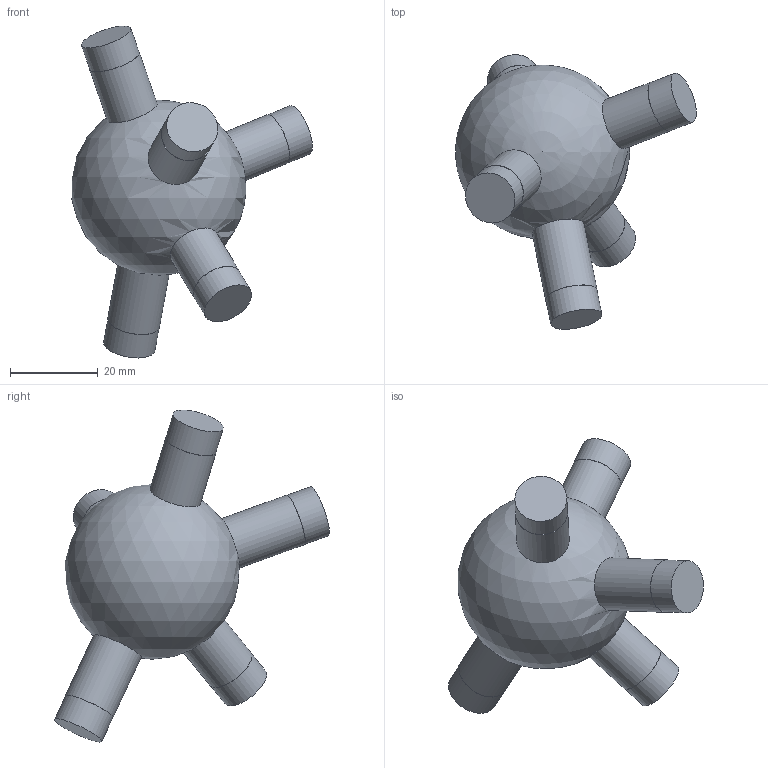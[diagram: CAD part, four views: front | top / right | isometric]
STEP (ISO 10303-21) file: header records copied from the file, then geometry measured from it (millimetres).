
FILE_DESCRIPTION(('Open CASCADE Model'),'2;1');
FILE_NAME('Open CASCADE Shape Model','2026-10-21T12:47:57',('Author'),( 'Open CASCADE'),'Open CASCADE STEP processor 7.9','Open CASCADE 7.9' ,'Unknown');
FILE_SCHEMA(('AUTOMOTIVE_DESIGN { 1 0 10303 214 1 1 1 1 }'));
Length unit declared in the file: millimetre
Products named in the file (1): Open CASCADE STEP translator 7.9 139
Bounding box: 55.04 x 62.79 x 75.85 mm (x, y, z)
Volume: 44385.2 mm3; surface area: 8735 mm2
Topology: 1 solids, 1 shells, 21 faces, 33 edges, 22 vertices
Faces by surface type: cylinder 10, plane 10, sphere 1
Full cylindrical faces by diameter (mm): 11.9 x5, 12 x5
Entity records: 1227 total; most frequent: CARTESIAN_POINT 502, DIRECTION 149, ORIENTED_EDGE 60, PCURVE 60, DEFINITIONAL_REPRESENTATION 60, LINE 50, VECTOR 50, AXIS2_PLACEMENT_3D 42
